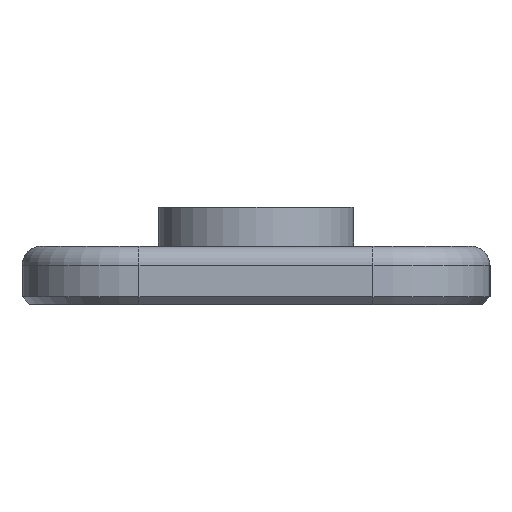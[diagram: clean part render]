
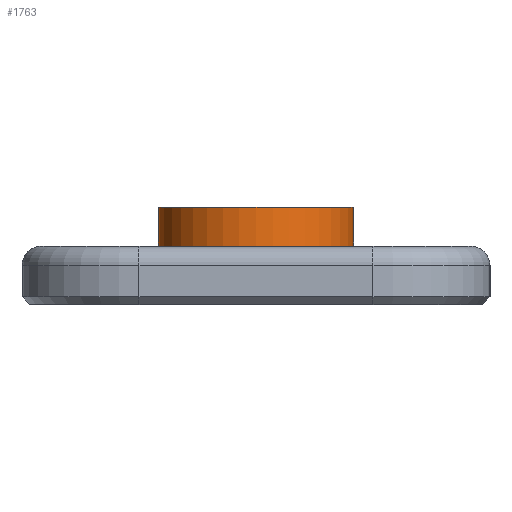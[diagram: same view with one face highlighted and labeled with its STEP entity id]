
A CAD part, left-side view. The second image highlights one B-rep face of the part: STEP entity #1763.
In plain terms, the highlighted cylindrical face has radius 2.5 mm (diameter 5 mm), a full revolution.
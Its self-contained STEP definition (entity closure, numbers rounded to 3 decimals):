
#362 = PLANE('',#363);
#363 = AXIS2_PLACEMENT_3D('',#364,#365,#366);
#364 = CARTESIAN_POINT('',(0.,0.,1.5));
#365 = DIRECTION('',(0.,0.,1.));
#366 = DIRECTION('',(1.,0.,-0.));
#1110 = EDGE_CURVE('',#1111,#1111,#1113,.T.);
#1111 = VERTEX_POINT('',#1112);
#1112 = CARTESIAN_POINT('',(-109.5,0.,1.5));
#1113 = SURFACE_CURVE('',#1114,(#1119,#1126),.PCURVE_S1.);
#1114 = CIRCLE('',#1115,2.5);
#1115 = AXIS2_PLACEMENT_3D('',#1116,#1117,#1118);
#1116 = CARTESIAN_POINT('',(-112.,0.,1.5));
#1117 = DIRECTION('',(0.,0.,1.));
#1118 = DIRECTION('',(1.,0.,-0.));
#1119 = PCURVE('',#362,#1120);
#1120 = DEFINITIONAL_REPRESENTATION('',(#1121),#1125);
#1121 = CIRCLE('',#1122,2.5);
#1122 = AXIS2_PLACEMENT_2D('',#1123,#1124);
#1123 = CARTESIAN_POINT('',(-112.,0.));
#1124 = DIRECTION('',(1.,0.));
#1125 = ( GEOMETRIC_REPRESENTATION_CONTEXT(2) 
PARAMETRIC_REPRESENTATION_CONTEXT() REPRESENTATION_CONTEXT('2D SPACE',''
  ) );
#1126 = PCURVE('',#1127,#1132);
#1127 = CYLINDRICAL_SURFACE('',#1128,2.5);
#1128 = AXIS2_PLACEMENT_3D('',#1129,#1130,#1131);
#1129 = CARTESIAN_POINT('',(-112.,0.,1.49));
#1130 = DIRECTION('',(0.,0.,1.));
#1131 = DIRECTION('',(1.,0.,-0.));
#1132 = DEFINITIONAL_REPRESENTATION('',(#1133),#1137);
#1133 = LINE('',#1134,#1135);
#1134 = CARTESIAN_POINT('',(0.,0.01));
#1135 = VECTOR('',#1136,1.);
#1136 = DIRECTION('',(1.,0.));
#1137 = ( GEOMETRIC_REPRESENTATION_CONTEXT(2) 
PARAMETRIC_REPRESENTATION_CONTEXT() REPRESENTATION_CONTEXT('2D SPACE',''
  ) );
#1546 = PLANE('',#1547);
#1547 = AXIS2_PLACEMENT_3D('',#1548,#1549,#1550);
#1548 = CARTESIAN_POINT('',(-112.,0.,2.49));
#1549 = DIRECTION('',(0.,0.,1.));
#1550 = DIRECTION('',(1.,0.,-0.));
#1763 = ADVANCED_FACE('',(#1764),#1127,.T.);
#1764 = FACE_BOUND('',#1765,.T.);
#1765 = EDGE_LOOP('',(#1766,#1789,#1811,#1812));
#1766 = ORIENTED_EDGE('',*,*,#1767,.T.);
#1767 = EDGE_CURVE('',#1111,#1768,#1770,.T.);
#1768 = VERTEX_POINT('',#1769);
#1769 = CARTESIAN_POINT('',(-109.5,0.,2.49));
#1770 = SEAM_CURVE('',#1771,(#1775,#1782),.PCURVE_S1.);
#1771 = LINE('',#1772,#1773);
#1772 = CARTESIAN_POINT('',(-109.5,0.,1.49));
#1773 = VECTOR('',#1774,1.);
#1774 = DIRECTION('',(0.,0.,1.));
#1775 = PCURVE('',#1127,#1776);
#1776 = DEFINITIONAL_REPRESENTATION('',(#1777),#1781);
#1777 = LINE('',#1778,#1779);
#1778 = CARTESIAN_POINT('',(6.283,-0.));
#1779 = VECTOR('',#1780,1.);
#1780 = DIRECTION('',(0.,1.));
#1781 = ( GEOMETRIC_REPRESENTATION_CONTEXT(2) 
PARAMETRIC_REPRESENTATION_CONTEXT() REPRESENTATION_CONTEXT('2D SPACE',''
  ) );
#1782 = PCURVE('',#1127,#1783);
#1783 = DEFINITIONAL_REPRESENTATION('',(#1784),#1788);
#1784 = LINE('',#1785,#1786);
#1785 = CARTESIAN_POINT('',(0.,-0.));
#1786 = VECTOR('',#1787,1.);
#1787 = DIRECTION('',(0.,1.));
#1788 = ( GEOMETRIC_REPRESENTATION_CONTEXT(2) 
PARAMETRIC_REPRESENTATION_CONTEXT() REPRESENTATION_CONTEXT('2D SPACE',''
  ) );
#1789 = ORIENTED_EDGE('',*,*,#1790,.F.);
#1790 = EDGE_CURVE('',#1768,#1768,#1791,.T.);
#1791 = SURFACE_CURVE('',#1792,(#1797,#1804),.PCURVE_S1.);
#1792 = CIRCLE('',#1793,2.5);
#1793 = AXIS2_PLACEMENT_3D('',#1794,#1795,#1796);
#1794 = CARTESIAN_POINT('',(-112.,0.,2.49));
#1795 = DIRECTION('',(0.,0.,1.));
#1796 = DIRECTION('',(1.,0.,-0.));
#1797 = PCURVE('',#1127,#1798);
#1798 = DEFINITIONAL_REPRESENTATION('',(#1799),#1803);
#1799 = LINE('',#1800,#1801);
#1800 = CARTESIAN_POINT('',(0.,1.));
#1801 = VECTOR('',#1802,1.);
#1802 = DIRECTION('',(1.,0.));
#1803 = ( GEOMETRIC_REPRESENTATION_CONTEXT(2) 
PARAMETRIC_REPRESENTATION_CONTEXT() REPRESENTATION_CONTEXT('2D SPACE',''
  ) );
#1804 = PCURVE('',#1546,#1805);
#1805 = DEFINITIONAL_REPRESENTATION('',(#1806),#1810);
#1806 = CIRCLE('',#1807,2.5);
#1807 = AXIS2_PLACEMENT_2D('',#1808,#1809);
#1808 = CARTESIAN_POINT('',(0.,0.));
#1809 = DIRECTION('',(1.,0.));
#1810 = ( GEOMETRIC_REPRESENTATION_CONTEXT(2) 
PARAMETRIC_REPRESENTATION_CONTEXT() REPRESENTATION_CONTEXT('2D SPACE',''
  ) );
#1811 = ORIENTED_EDGE('',*,*,#1767,.F.);
#1812 = ORIENTED_EDGE('',*,*,#1110,.T.);
